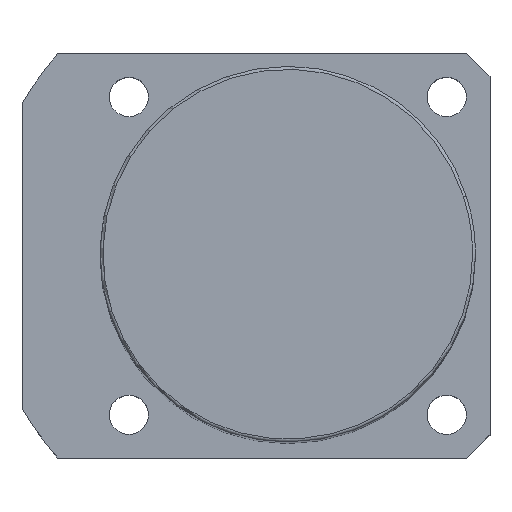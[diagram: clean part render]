
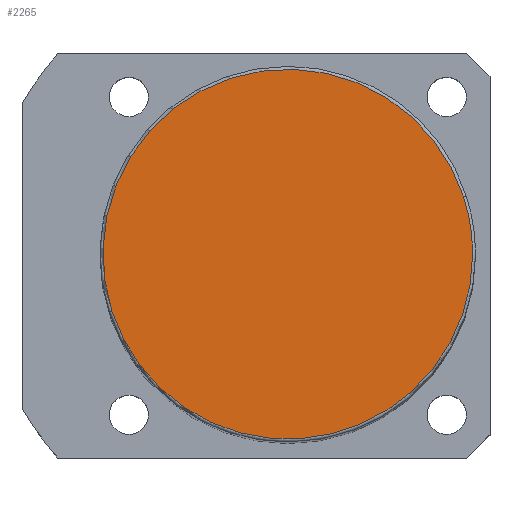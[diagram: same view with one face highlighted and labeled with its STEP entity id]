
A CAD part, top view. The second image highlights one B-rep face of the part: STEP entity #2265.
In plain terms, the highlighted planar face has unit normal (0, 0, 1).
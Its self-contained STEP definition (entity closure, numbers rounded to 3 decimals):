
#2231=CARTESIAN_POINT('',(32.0,0.0,181.0));
#2232=VERTEX_POINT('',#2231);
#2233=CARTESIAN_POINT('',(30.434,9.889,181.0));
#2234=VERTEX_POINT('',#2233);
#2235=CARTESIAN_POINT('',(0.0,0.0,181.0));
#2236=DIRECTION('',(0.0,0.0,1.0));
#2237=DIRECTION('',(1.0,0.0,0.0));
#2238=AXIS2_PLACEMENT_3D('',#2235,#2236,#2237);
#2239=CIRCLE('',#2238,32.0);
#2240=EDGE_CURVE('no 2136',#2232,#2234,#2239,.T.);
#2241=ORIENTED_EDGE('',*,*,#2240,.T.);
#2242=CARTESIAN_POINT('',(-30.434,-9.889,181.0));
#2243=VERTEX_POINT('',#2242);
#2244=CARTESIAN_POINT('',(0.0,0.0,181.0));
#2245=DIRECTION('',(0.0,0.0,1.0));
#2246=DIRECTION('',(1.0,0.0,0.0));
#2247=AXIS2_PLACEMENT_3D('',#2244,#2245,#2246);
#2248=CIRCLE('',#2247,32.0);
#2249=EDGE_CURVE('no 2142',#2234,#2243,#2248,.T.);
#2250=ORIENTED_EDGE('',*,*,#2249,.T.);
#2251=CARTESIAN_POINT('',(0.0,0.0,181.0));
#2252=DIRECTION('',(0.0,0.0,1.0));
#2253=DIRECTION('',(1.0,0.0,0.0));
#2254=AXIS2_PLACEMENT_3D('',#2251,#2252,#2253);
#2255=CIRCLE('',#2254,32.0);
#2256=EDGE_CURVE('no 2146',#2243,#2232,#2255,.T.);
#2257=ORIENTED_EDGE('',*,*,#2256,.T.);
#2258=EDGE_LOOP('',(#2241,#2250,#2257));
#2259=FACE_OUTER_BOUND('',#2258,.T.);
#2260=CARTESIAN_POINT('',(0.0,0.0,181.0));
#2261=DIRECTION('',(0.0,0.0,1.0));
#2262=DIRECTION('',(1.0,0.0,0.0));
#2263=AXIS2_PLACEMENT_3D('',#2260,#2261,#2262);
#2264=PLANE('',#2263);
#2265=ADVANCED_FACE('no 2127',(#2259),#2264,.T.);
